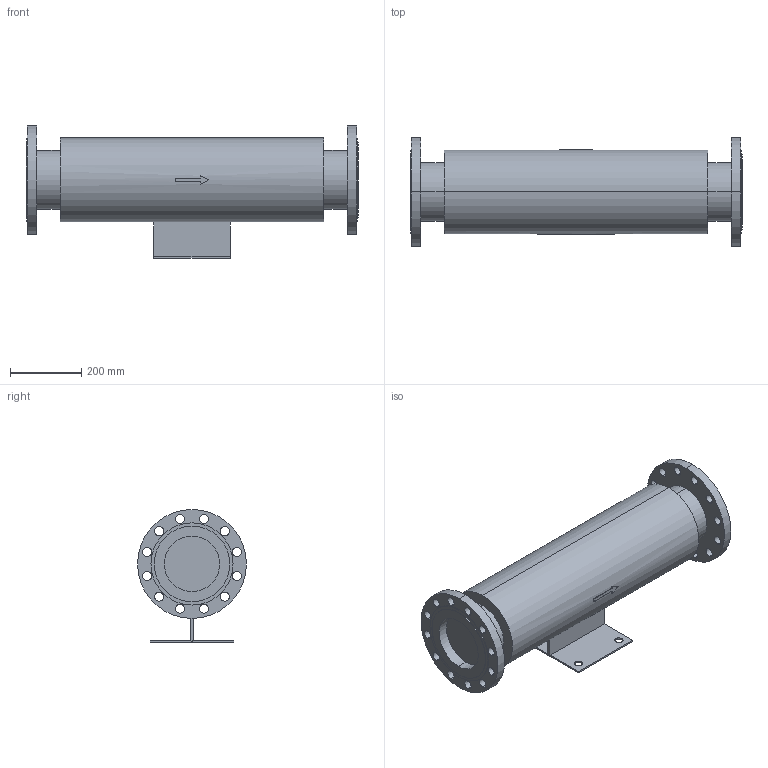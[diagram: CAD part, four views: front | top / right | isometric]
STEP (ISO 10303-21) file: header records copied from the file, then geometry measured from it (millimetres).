
FILE_DESCRIPTION( (''), '2;1');
FILE_NAME ('PC1027.9516.EB-12 150A_790.stp','2025-07-30T09:38:31',(''),(''),'spGate 20.6.3 (****-****-****-****)','','');
FILE_SCHEMA (('AUTOMOTIVE_DESIGN'));
Length unit declared in the file: millimetre
Bounding box: 930 x 305 x 372.5 mm (x, y, z)
Volume: 37947153 mm3; surface area: 1161290.3 mm2
Topology: 1 solids, 1 shells, 120 faces, 317 edges, 212 vertices
Faces by surface type: cylinder 80, plane 40
Entity records: 6321 total; most frequent: CARTESIAN_POINT 735, DIRECTION 645, ORIENTED_EDGE 634, COLOUR_RGB 438, PRESENTATION_STYLE_ASSIGNMENT 438, STYLED_ITEM 438, EDGE_CURVE 317, DRAUGHTING_PRE_DEFINED_CURVE_FONT 317
